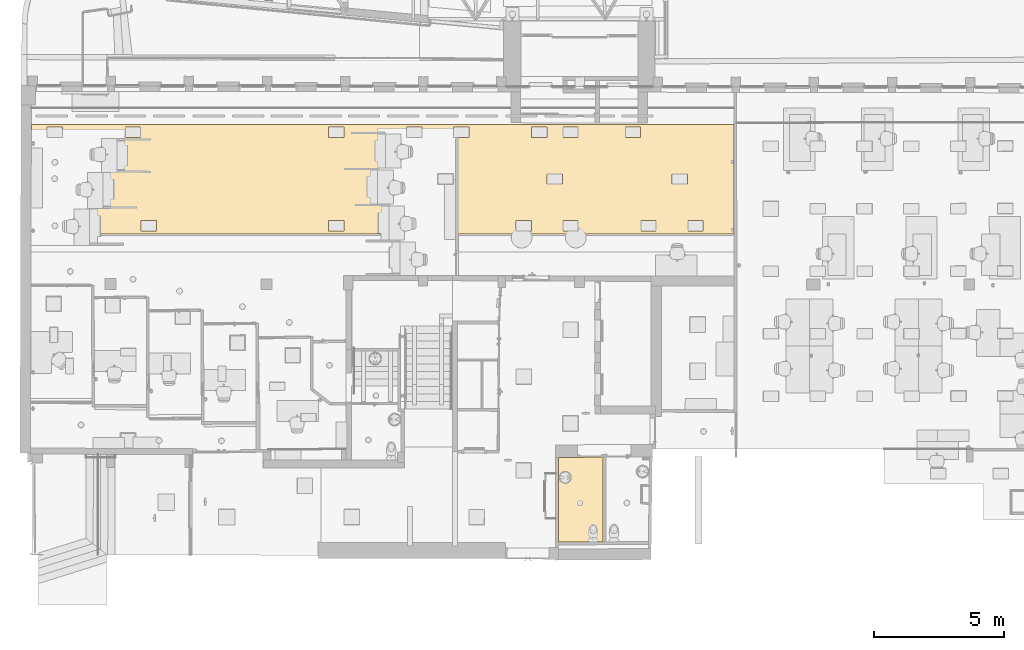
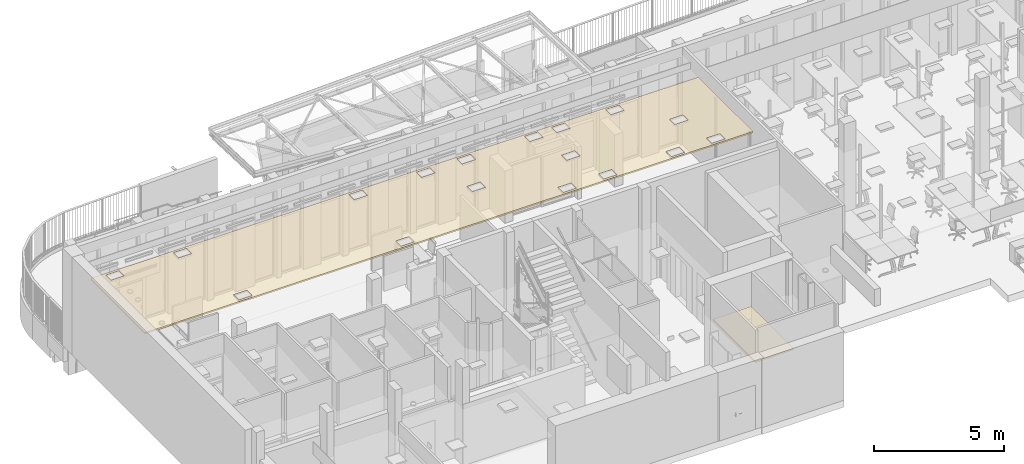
# One storey, part 60 of 128: 2 coverings.
"""IFC2X3 building model written with IfcOpenShell, lengths in metres."""

from ifc_helpers import new_model, entity, si_unit, converted_unit, derived_unit, direction, frame, origin, place, context, subcontext, project, spatial, faceted_brep, material, layer, layer_set, layer_usage, type_object, element, save


model = new_model("IFC2X3")

# Units and contexts
model_context = context("Model", 3, precision=1e-05, world=origin(), true_north=direction((6.123031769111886e-17, 1.0)))
body_context = subcontext(model_context, "Body", "Model", "MODEL_VIEW")
ifc_project = project(units=[si_unit("LENGTHUNIT", "METRE"), si_unit("AREAUNIT", "SQUARE_METRE"), converted_unit("PLANEANGLEUNIT", "DEGREE", entity("IfcPlaneAngleMeasure", 0.017453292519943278), si_unit("PLANEANGLEUNIT", "RADIAN"), dimensions=[0, 0, 0, 0, 0, 0, 0]), derived_unit("THERMALTRANSMITTANCEUNIT", [(si_unit("MASSUNIT", "GRAM", prefix="KILO"), 1), (si_unit("THERMODYNAMICTEMPERATUREUNIT", "KELVIN"), -1), (si_unit("TIMEUNIT", "SECOND"), -3)])], contexts=[model_context])

# Site, building, storey
site_placement = place(None, origin())
site = spatial("IfcSite", under=ifc_project, at=site_placement, Name="Default", CompositionType="ELEMENT")
building_placement = place(site_placement, origin())
building = spatial("IfcBuilding", under=site, at=building_placement, CompositionType="ELEMENT")
storey_placement = place(building_placement, origin())
storey = spatial("IfcBuildingStorey", under=building, at=storey_placement, Name="00_RDC CAF", CompositionType="ELEMENT", Elevation=2.4982504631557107e-13)

# Coverings
ifc_material_1 = material(Name="ARC - FP - Blanc")
ifc_layer_1 = layer(ifc_material_1, 0.02)
ifc_material_2 = material(Name="ARC - FP - Trame 600 x 600")
ifc_layer_2 = layer(ifc_material_2, 0.05)
ifc_layer_set = layer_set([ifc_layer_1, ifc_layer_2], Name="Plafond composé:FP_Dalle-600X600_70mm")
ifc_layer_usage_1 = layer_usage(ifc_layer_set, "AXIS3", "NEGATIVE", 0.07)
covering_type = type_object("IfcCoveringType", Name="Plafond composé:FP_Dalle-600X600_70mm", PredefinedType="CEILING")
covering_1_placement = place(storey_placement, frame((6.685112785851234, 138.4858941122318, 3.8399999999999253)))
element("IfcCovering", 1, at=covering_1_placement, inside=storey, type_object=covering_type, material=ifc_layer_usage_1, Name="Plafond composé:FP_Dalle-600X600_70mm", ObjectType="Plafond composé:FP_Dalle-600X600_70mm", PredefinedType="CEILING", context=body_context, shape_type="Brep", body=[
    faceted_brep([(0.012186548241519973, 4.204321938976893, 0.07000000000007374), (4.209170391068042, 4.104321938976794, 0.07000000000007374), (11.419170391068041, 4.1043219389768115, 0.07000000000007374), (3.619170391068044, 4.104321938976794, 0.07000000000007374), (1.2091703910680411, 4.104321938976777, 0.07000000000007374), (0.6191703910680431, 4.104321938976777, 0.07000000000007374), (12.009170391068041, 4.1043219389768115, 0.07000000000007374), (14.41917039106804, 4.104321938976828, 0.07000000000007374), (26.988919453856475, 4.204321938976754, 0.07000000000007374), (0.6191703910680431, 3.704321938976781, 0.07000000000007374), (0.0, 0.0, 0.07000000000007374), (1.2091703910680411, 3.704321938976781, 0.07000000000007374), (4.219170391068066, 0.504321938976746, 0.07000000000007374), (4.219170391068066, 0.10432193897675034, 0.07000000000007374), (4.809170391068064, 0.10432193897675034, 0.07000000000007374), (11.419170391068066, 0.10432193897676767, 0.07000000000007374), (12.009170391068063, 0.10432193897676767, 0.07000000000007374), (26.991775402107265, 0.0, 0.07000000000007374), (18.619170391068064, 0.10432193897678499, 0.07000000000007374), (19.20917039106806, 0.10432193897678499, 0.07000000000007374), (20.41917039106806, 0.10432193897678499, 0.07000000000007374), (21.009170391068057, 0.10432193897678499, 0.07000000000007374), (23.419170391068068, 0.10432193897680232, 0.07000000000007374), (24.00917039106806, 0.10432193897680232, 0.07000000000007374), (25.21917039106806, 0.10432193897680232, 0.07000000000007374), (25.809170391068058, 0.10432193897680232, 0.07000000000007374), (25.809170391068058, 0.504321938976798, 0.07000000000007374), (25.209170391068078, 1.9043219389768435, 0.07000000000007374), (15.009170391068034, 4.104321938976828, 0.07000000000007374), (16.219170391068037, 4.104321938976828, 0.07000000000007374), (16.809170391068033, 4.104321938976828, 0.07000000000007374), (19.219170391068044, 4.104321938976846, 0.07000000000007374), (19.80917039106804, 4.104321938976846, 0.07000000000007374), (20.419170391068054, 4.104321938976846, 0.07000000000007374), (21.009170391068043, 4.104321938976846, 0.07000000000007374), (22.819170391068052, 4.104321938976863, 0.07000000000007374), (23.409170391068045, 4.104321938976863, 0.07000000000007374), (25.20917039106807, 2.3043219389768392, 0.07000000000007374), (25.21917039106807, 0.504321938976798, 0.07000000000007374), (24.61917039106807, 1.9043219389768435, 0.07000000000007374), (24.009170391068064, 0.504321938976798, 0.07000000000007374), (23.419170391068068, 0.504321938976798, 0.07000000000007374), (22.819170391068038, 3.7043219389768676, 0.07000000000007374), (24.61917039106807, 2.3043219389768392, 0.07000000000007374), (23.40917039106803, 3.7043219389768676, 0.07000000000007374), (21.00917039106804, 3.7043219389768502, 0.07000000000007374), (20.409170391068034, 2.304321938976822, 0.07000000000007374), (20.409170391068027, 1.9043219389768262, 0.07000000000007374), (21.009170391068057, 0.5043219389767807, 0.07000000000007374), (20.41917039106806, 0.5043219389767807, 0.07000000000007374), (19.81917039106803, 1.9043219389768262, 0.07000000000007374), (19.20917039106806, 0.5043219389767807, 0.07000000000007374), (18.619170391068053, 0.5043219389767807, 0.07000000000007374), (19.81917039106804, 2.304321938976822, 0.07000000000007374), (16.20917039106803, 2.3043219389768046, 0.07000000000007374), (16.809170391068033, 3.704321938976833, 0.07000000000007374), (19.219170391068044, 3.7043219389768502, 0.07000000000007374), (19.80917039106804, 3.7043219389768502, 0.07000000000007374), (20.419170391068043, 3.7043219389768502, 0.07000000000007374), (16.219170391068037, 3.704321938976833, 0.07000000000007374), (15.009170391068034, 3.704321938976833, 0.07000000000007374), (15.619170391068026, 2.3043219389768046, 0.07000000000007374), (16.20917039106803, 1.904321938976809, 0.07000000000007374), (15.619170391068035, 1.904321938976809, 0.07000000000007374), (14.41917039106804, 3.704321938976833, 0.07000000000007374), (12.009170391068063, 0.5043219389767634, 0.07000000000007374), (12.009170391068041, 3.7043219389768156, 0.07000000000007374), (11.419170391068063, 0.5043219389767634, 0.07000000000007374), (4.809170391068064, 0.5043219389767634, 0.07000000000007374), (11.419170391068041, 3.7043219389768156, 0.07000000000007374), (4.209170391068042, 3.7043219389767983, 0.07000000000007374), (3.619170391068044, 3.7043219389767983, 0.07000000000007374), (0.0, 0.0, 0.0), (0.8091439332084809, 0.2756494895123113, 0.0), (0.8201329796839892, 0.24911958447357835, 0.0), (0.8053957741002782, 0.30411958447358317, 0.0), (0.837614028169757, 0.22633783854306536, 0.0), (0.8603957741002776, 0.20885679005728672, 0.0), (0.8091439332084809, 0.33258967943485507, 0.0), (0.8376140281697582, 0.38190133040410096, 0.0), (0.8201329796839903, 0.359119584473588, 0.0), (0.8521204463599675, 2.020326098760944, 0.0), (0.8603957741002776, 0.3993823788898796, 0.0), (0.829338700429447, 2.0378071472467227, 0.0), (0.8869256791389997, 0.19786774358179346, 0.0), (0.9153957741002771, 0.19411958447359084, 0.0), (0.9438658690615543, 0.19786774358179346, 0.0), (1.0106585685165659, 0.359119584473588, 0.0), (0.9931775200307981, 0.38190133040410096, 0.0), (1.0023832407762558, 2.0605888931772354, 0.0), (0.9703957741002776, 0.3993823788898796, 0.0), (0.984902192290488, 2.0378071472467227, 0.0), (0.9703957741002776, 0.20885679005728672, 0.0), (0.9931775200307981, 0.22633783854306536, 0.0), (4.219170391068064, 0.10432193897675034, 0.0), (0.8786503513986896, 2.0093370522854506, 0.0), (0.8869256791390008, 0.41037142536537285, 0.0), (0.9071204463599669, 2.005588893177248, 0.0), (0.012186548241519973, 4.204321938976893, 0.0), (0.8008686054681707, 2.144058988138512, 0.0), (0.7971204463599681, 2.1155888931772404, 0.0), (0.8118576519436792, 2.0605888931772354, 0.0), (0.809868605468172, 2.715118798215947, 0.0), (0.8118576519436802, 2.170588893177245, 0.0), (0.8008686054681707, 2.0871187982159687, 0.0), (0.9153957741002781, 0.4141195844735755, 0.0), (0.9355905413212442, 2.0093370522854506, 0.0), (0.9438658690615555, 0.41037142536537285, 0.0), (0.9621204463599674, 2.020326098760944, 0.0), (4.219170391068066, 0.504321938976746, 0.0), (1.017120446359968, 2.1155888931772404, 0.0), (1.0133722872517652, 2.144058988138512, 0.0), (3.6191703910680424, 3.7043219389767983, 0.0), (1.0133722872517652, 2.0871187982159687, 0.0), (11.419170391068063, 0.10432193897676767, 0.0), (4.809170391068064, 0.10432193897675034, 0.0), (4.809170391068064, 0.504321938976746, 0.0), (12.009170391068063, 0.10432193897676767, 0.0), (26.991775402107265, 0.0, 0.0), (1.025395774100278, 0.30411958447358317, 0.0), (1.0216476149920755, 0.33258967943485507, 0.0), (1.0216476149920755, 0.2756494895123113, 0.0), (1.0106585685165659, 0.24911958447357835, 0.0), (18.619170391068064, 0.10432193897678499, 0.0), (15.619170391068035, 1.904321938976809, 0.0), (19.20917039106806, 0.10432193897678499, 0.0), (20.41917039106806, 0.10432193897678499, 0.0), (21.009170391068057, 0.10432193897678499, 0.0), (20.41917039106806, 0.5043219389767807, 0.0), (23.41917039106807, 0.10432193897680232, 0.0), (23.419170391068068, 0.504321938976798, 0.0), (25.21917039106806, 0.10432193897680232, 0.0), (25.809170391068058, 0.10432193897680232, 0.0), (24.00917039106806, 0.10432193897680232, 0.0), (25.219170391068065, 0.504321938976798, 0.0), (25.809170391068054, 0.504321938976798, 0.0), (12.009170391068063, 0.5043219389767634, 0.0), (14.41917039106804, 3.704321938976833, 0.0), (16.20917039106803, 1.904321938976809, 0.0), (4.209170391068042, 3.704321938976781, 0.0), (11.419170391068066, 0.5043219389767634, 0.0), (12.009170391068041, 3.7043219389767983, 0.0), (18.61917039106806, 0.5043219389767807, 0.0), (19.81917039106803, 1.9043219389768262, 0.0), (19.20917039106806, 0.5043219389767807, 0.0), (19.819170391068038, 2.304321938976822, 0.0), (16.20917039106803, 2.3043219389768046, 0.0), (11.419170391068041, 3.7043219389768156, 0.0), (21.009170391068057, 0.5043219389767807, 0.0), (20.409170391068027, 1.9043219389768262, 0.0), (24.61917039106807, 1.9043219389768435, 0.0), (24.009170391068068, 0.504321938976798, 0.0), (25.20917039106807, 1.9043219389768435, 0.0), (22.819170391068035, 3.7043219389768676, 0.0), (26.988919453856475, 4.204321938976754, 0.0), (0.8521204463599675, 2.2108516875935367, 0.0), (0.829338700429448, 2.193370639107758, 0.0), (0.8383387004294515, 2.665807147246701, 0.0), (0.907120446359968, 2.2255888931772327, 0.0), (0.8786503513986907, 2.2218407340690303, 0.0), (0.8876503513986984, 2.637337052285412, 0.0), (0.8611204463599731, 2.6483260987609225, 0.0), (0.8208576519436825, 2.688588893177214, 0.0), (0.9161204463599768, 2.6335888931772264, 0.0), (0.9621204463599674, 2.2108516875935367, 0.0), (0.9355905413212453, 2.2218407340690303, 0.0), (0.9445905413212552, 2.6373370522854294, 0.0), (1.0023832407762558, 2.170588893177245, 0.0), (0.984902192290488, 2.193370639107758, 0.0), (0.9939021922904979, 2.665807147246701, 0.0), (0.9711204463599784, 2.64832609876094, 0.0), (1.0113832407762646, 2.6885888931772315, 0.0), (1.0223722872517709, 2.7151187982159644, 0.0), (0.8098686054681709, 2.772058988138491, 0.0), (0.8061204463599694, 2.7435888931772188, 0.0), (0.838338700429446, 2.821370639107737, 0.0), (0.8208576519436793, 2.798588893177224, 0.0), (0.6191703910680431, 3.704321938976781, 0.0), (0.6191703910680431, 4.104321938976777, 0.0), (1.2091703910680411, 4.104321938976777, 0.0), (0.8611204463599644, 2.838851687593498, 0.0), (0.8876503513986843, 2.8498407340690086, 0.0), (0.9161204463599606, 2.853588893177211, 0.0), (1.2091703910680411, 3.7043219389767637, 0.0), (1.0223722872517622, 2.7720589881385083, 0.0), (1.0113832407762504, 2.798588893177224, 0.0), (1.0261204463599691, 2.743588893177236, 0.0), (0.9445905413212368, 2.849840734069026, 0.0), (0.9939021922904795, 2.821370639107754, 0.0), (0.9711204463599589, 2.8388516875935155, 0.0), (3.619170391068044, 4.104321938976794, 0.0), (15.61917039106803, 2.3043219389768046, 0.0), (16.219170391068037, 3.704321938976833, 0.0), (15.009170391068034, 3.7043219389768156, 0.0), (15.009170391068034, 4.104321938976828, 0.0), (14.41917039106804, 4.104321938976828, 0.0), (11.419170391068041, 4.1043219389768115, 0.0), (20.409170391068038, 2.304321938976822, 0.0), (19.80917039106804, 3.704321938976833, 0.0), (23.409170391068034, 3.7043219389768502, 0.0), (25.209170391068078, 2.3043219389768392, 0.0), (24.61917039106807, 2.3043219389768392, 0.0), (16.809170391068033, 3.7043219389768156, 0.0), (19.219170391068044, 3.7043219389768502, 0.0), (20.419170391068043, 3.7043219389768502, 0.0), (19.80917039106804, 4.104321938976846, 0.0), (16.809170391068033, 4.104321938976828, 0.0), (21.00917039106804, 3.704321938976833, 0.0), (4.209170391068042, 4.104321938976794, 0.0), (12.009170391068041, 4.1043219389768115, 0.0), (16.219170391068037, 4.104321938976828, 0.0), (19.219170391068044, 4.104321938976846, 0.0), (21.009170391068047, 4.104321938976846, 0.0), (20.419170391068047, 4.104321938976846, 0.0), (22.81917039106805, 4.104321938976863, 0.0), (23.40917039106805, 4.104321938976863, 0.0), (0.012186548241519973, 4.204321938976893, 0.010000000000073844), (26.98891945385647, 4.204321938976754, 0.010000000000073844), (0.9703957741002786, 0.20885679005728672, 0.04999999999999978), (0.9438658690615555, 0.19786774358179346, 0.04999999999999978), (0.9153957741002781, 0.19411958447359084, 0.04999999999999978), (0.8869256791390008, 0.19786774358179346, 0.04999999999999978), (0.8603957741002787, 0.20885679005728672, 0.04999999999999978), (0.8376140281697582, 0.22633783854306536, 0.04999999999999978), (0.8201329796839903, 0.24911958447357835, 0.04999999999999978), (0.8091439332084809, 0.2756494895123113, 0.04999999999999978), (0.8053957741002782, 0.30411958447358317, 0.04999999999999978), (0.8091439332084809, 0.33258967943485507, 0.04999999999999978), (0.8201329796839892, 0.359119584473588, 0.04999999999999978), (0.837614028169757, 0.38190133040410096, 0.04999999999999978), (0.8603957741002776, 0.3993823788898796, 0.04999999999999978), (0.8869256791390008, 0.41037142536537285, 0.04999999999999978), (0.9153957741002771, 0.4141195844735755, 0.04999999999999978), (0.9438658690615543, 0.41037142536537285, 0.04999999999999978), (0.9703957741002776, 0.3993823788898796, 0.04999999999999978), (0.9931775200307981, 0.38190133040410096, 0.04999999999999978), (1.0106585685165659, 0.359119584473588, 0.04999999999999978), (1.0216476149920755, 0.33258967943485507, 0.04999999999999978), (1.025395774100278, 0.30411958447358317, 0.04999999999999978), (1.0216476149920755, 0.2756494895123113, 0.04999999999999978), (1.0106585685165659, 0.24911958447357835, 0.04999999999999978), (0.9931775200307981, 0.22633783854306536, 0.04999999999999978), (0.9621204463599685, 2.020326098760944, 0.04999999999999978), (0.9355905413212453, 2.0093370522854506, 0.04999999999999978), (0.907120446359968, 2.005588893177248, 0.04999999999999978), (0.8786503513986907, 2.0093370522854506, 0.04999999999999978), (0.8521204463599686, 2.020326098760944, 0.04999999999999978), (0.829338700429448, 2.0378071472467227, 0.04999999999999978), (0.8118576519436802, 2.0605888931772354, 0.04999999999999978), (0.8008686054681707, 2.0871187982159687, 0.04999999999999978), (0.7971204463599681, 2.1155888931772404, 0.04999999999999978), (0.8008686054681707, 2.144058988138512, 0.04999999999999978), (0.8118576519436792, 2.170588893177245, 0.04999999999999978), (0.829338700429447, 2.193370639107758, 0.04999999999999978), (0.8521204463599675, 2.2108516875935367, 0.04999999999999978), (0.8786503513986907, 2.2218407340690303, 0.04999999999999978), (0.9071204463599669, 2.2255888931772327, 0.04999999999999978), (0.9355905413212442, 2.2218407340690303, 0.04999999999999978), (0.9621204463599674, 2.2108516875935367, 0.04999999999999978), (0.984902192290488, 2.193370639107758, 0.04999999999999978), (1.0023832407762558, 2.170588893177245, 0.04999999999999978), (1.0133722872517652, 2.144058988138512, 0.04999999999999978), (1.017120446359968, 2.1155888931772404, 0.04999999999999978), (1.0133722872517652, 2.0871187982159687, 0.04999999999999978), (1.0023832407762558, 2.0605888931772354, 0.04999999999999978), (0.984902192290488, 2.0378071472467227, 0.04999999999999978), (0.9711204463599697, 2.6483260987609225, 0.04999999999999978), (0.9445905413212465, 2.6373370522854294, 0.04999999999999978), (0.9161204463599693, 2.6335888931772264, 0.04999999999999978), (0.887650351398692, 2.6373370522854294, 0.04999999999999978), (0.8611204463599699, 2.6483260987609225, 0.04999999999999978), (0.8383387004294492, 2.665807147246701, 0.04999999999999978), (0.8208576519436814, 2.688588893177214, 0.04999999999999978), (0.809868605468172, 2.715118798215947, 0.04999999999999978), (0.8061204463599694, 2.7435888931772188, 0.04999999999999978), (0.809868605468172, 2.772058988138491, 0.04999999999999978), (0.8208576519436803, 2.798588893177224, 0.04999999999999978), (0.8383387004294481, 2.821370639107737, 0.04999999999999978), (0.8611204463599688, 2.8388516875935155, 0.04999999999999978), (0.8876503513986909, 2.8498407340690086, 0.04999999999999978), (0.9161204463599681, 2.853588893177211, 0.04999999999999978), (0.9445905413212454, 2.8498407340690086, 0.04999999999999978), (0.9711204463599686, 2.8388516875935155, 0.04999999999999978), (0.9939021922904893, 2.821370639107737, 0.04999999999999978), (1.011383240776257, 2.798588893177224, 0.04999999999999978), (1.0223722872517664, 2.772058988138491, 0.04999999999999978), (1.0261204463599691, 2.7435888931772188, 0.04999999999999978), (1.0223722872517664, 2.715118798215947, 0.04999999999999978), (1.011383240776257, 2.688588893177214, 0.04999999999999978), (0.9939021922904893, 2.665807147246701, 0.04999999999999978)], [[[0, 1, 2]], [[1, 0, 3]], [[4, 3, 0]], [[0, 5, 4]], [[2, 6, 0]], [[0, 6, 7]], [[8, 0, 7]], [[5, 0, 9]], [[0, 10, 9]], [[11, 9, 10]], [[11, 10, 12]], [[10, 13, 12]], [[13, 10, 14]], [[14, 10, 15]], [[15, 10, 16]], [[17, 16, 10]], [[16, 17, 18]], [[19, 18, 17]], [[20, 19, 17]], [[21, 20, 17]], [[17, 22, 21]], [[23, 22, 17]], [[23, 17, 24]], [[25, 24, 17]], [[25, 17, 26]], [[27, 26, 17]], [[27, 17, 8]], [[7, 28, 8]], [[8, 28, 29]], [[30, 8, 29]], [[30, 31, 8]], [[32, 8, 31]], [[32, 33, 8]], [[8, 33, 34]], [[34, 35, 8]], [[36, 8, 35]], [[37, 8, 36]], [[8, 37, 27]], [[27, 38, 26]], [[27, 39, 38]], [[38, 39, 40]], [[39, 41, 40]], [[41, 39, 42]], [[43, 42, 39]], [[37, 44, 43]], [[43, 44, 42]], [[34, 42, 35]], [[45, 42, 34]], [[45, 46, 42]], [[47, 41, 42]], [[46, 47, 42]], [[47, 48, 41]], [[49, 48, 47]], [[49, 47, 50]], [[50, 51, 49]], [[51, 50, 52]], [[53, 52, 50]], [[53, 54, 52]], [[54, 53, 55]], [[56, 55, 53]], [[53, 57, 56]], [[53, 46, 57]], [[57, 46, 58]], [[57, 58, 32]], [[31, 30, 56]], [[56, 30, 55]], [[54, 55, 59]], [[28, 59, 29]], [[59, 28, 60]], [[61, 59, 60]], [[61, 54, 59]], [[52, 54, 62]], [[18, 62, 63]], [[18, 52, 62]], [[61, 64, 63]], [[16, 63, 65]], [[63, 64, 65]], [[16, 18, 63]], [[66, 65, 64]], [[67, 65, 66]], [[49, 51, 19]], [[19, 20, 49]], [[21, 41, 48]], [[21, 22, 41]], [[38, 40, 23]], [[24, 38, 23]], [[15, 68, 14]], [[68, 15, 67]], [[66, 69, 67]], [[67, 69, 68]], [[70, 68, 69]], [[70, 12, 68]], [[70, 71, 12]], [[11, 12, 71]], [[3, 11, 71]], [[3, 4, 11]], [[70, 2, 1]], [[70, 69, 2]], [[7, 6, 66]], [[7, 66, 64]], [[64, 61, 60]], [[58, 33, 32]], [[58, 46, 45]], [[37, 36, 44]], [[72, 73, 74]], [[73, 72, 75]], [[74, 76, 72]], [[72, 76, 77]], [[78, 75, 72]], [[79, 80, 72]], [[81, 82, 79]], [[78, 72, 80]], [[79, 72, 83]], [[77, 84, 72]], [[85, 86, 72]], [[84, 85, 72]], [[87, 88, 89]], [[90, 91, 88]], [[92, 93, 94]], [[86, 92, 94]], [[72, 86, 94]], [[95, 82, 81]], [[96, 95, 97]], [[96, 82, 95]], [[79, 83, 81]], [[98, 99, 100]], [[83, 72, 101]], [[99, 102, 103]], [[101, 72, 104]], [[72, 100, 104]], [[105, 97, 106]], [[97, 105, 96]], [[107, 106, 108]], [[106, 107, 105]], [[91, 90, 108]], [[89, 109, 87]], [[89, 88, 91]], [[107, 108, 90]], [[110, 111, 112]], [[100, 72, 98]], [[109, 89, 113]], [[114, 72, 115]], [[115, 116, 114]], [[117, 118, 72]], [[117, 72, 114]], [[119, 109, 94]], [[109, 119, 120]], [[94, 121, 119]], [[87, 109, 120]], [[121, 94, 122]], [[94, 93, 122]], [[123, 117, 124]], [[123, 125, 118]], [[118, 126, 127]], [[126, 118, 125]], [[128, 126, 125]], [[123, 118, 117]], [[127, 129, 118]], [[129, 127, 130]], [[131, 132, 118]], [[133, 131, 118]], [[134, 131, 133]], [[129, 133, 118]], [[118, 132, 135]], [[115, 72, 94]], [[124, 136, 137]], [[117, 136, 124]], [[124, 138, 123]], [[116, 109, 139]], [[136, 140, 141]], [[142, 123, 138]], [[142, 143, 144]], [[143, 142, 145]], [[144, 143, 128]], [[138, 146, 142]], [[140, 116, 147]], [[112, 109, 110]], [[144, 128, 125]], [[130, 148, 149]], [[150, 151, 130]], [[149, 148, 128]], [[130, 127, 148]], [[150, 134, 151]], [[134, 152, 135]], [[152, 134, 150]], [[135, 152, 118]], [[149, 153, 130]], [[153, 150, 130]], [[128, 143, 149]], [[134, 133, 151]], [[114, 116, 140]], [[110, 109, 113]], [[118, 152, 154]], [[155, 156, 157]], [[158, 159, 160]], [[155, 161, 159]], [[162, 156, 103]], [[161, 160, 159]], [[157, 161, 155]], [[162, 157, 156]], [[102, 162, 103]], [[158, 160, 163]], [[164, 165, 166]], [[167, 168, 169]], [[164, 170, 168]], [[163, 166, 165]], [[169, 171, 167]], [[170, 169, 168]], [[166, 170, 164]], [[165, 158, 163]], [[171, 172, 111]], [[173, 174, 98]], [[175, 176, 177]], [[173, 177, 176]], [[178, 98, 179]], [[98, 178, 177]], [[180, 177, 181]], [[180, 175, 177]], [[182, 181, 177]], [[177, 173, 98]], [[102, 99, 174]], [[183, 184, 185]], [[112, 172, 186]], [[186, 184, 112]], [[187, 182, 183]], [[183, 188, 189]], [[183, 189, 187]], [[185, 188, 183]], [[183, 182, 177]], [[112, 111, 172]], [[98, 190, 179]], [[98, 174, 99]], [[109, 112, 139]], [[145, 142, 146]], [[191, 192, 146]], [[147, 116, 139]], [[112, 184, 183]], [[137, 136, 141]], [[192, 193, 194]], [[141, 195, 137]], [[137, 193, 191]], [[137, 191, 124]], [[147, 141, 140]], [[147, 139, 196]], [[192, 191, 193]], [[197, 153, 149]], [[197, 145, 198]], [[199, 200, 201]], [[150, 153, 201]], [[202, 203, 145]], [[204, 197, 198]], [[205, 204, 198]], [[145, 203, 198]], [[203, 202, 206]], [[202, 145, 146]], [[146, 192, 202]], [[204, 207, 197]], [[112, 183, 190]], [[208, 196, 139]], [[98, 196, 208]], [[195, 209, 98]], [[98, 209, 196]], [[141, 209, 195]], [[194, 210, 192]], [[154, 194, 195]], [[206, 211, 203]], [[154, 206, 210]], [[154, 211, 206]], [[210, 194, 154]], [[190, 98, 208]], [[153, 207, 212]], [[204, 205, 213]], [[199, 201, 153]], [[153, 197, 207]], [[212, 214, 153]], [[212, 213, 154]], [[214, 154, 215]], [[154, 214, 212]], [[154, 200, 215]], [[213, 205, 154]], [[205, 211, 154]], [[215, 200, 199]], [[98, 154, 195]], [[183, 179, 190]], [[200, 154, 152]], [[171, 111, 167]], [[10, 0, 216, 98, 72]], [[17, 10, 72, 118]], [[8, 17, 118, 154, 217]], [[0, 8, 217, 154, 98, 216]], [[26, 38, 134, 135]], [[40, 41, 130, 151]], [[48, 49, 128, 148]], [[51, 52, 142, 144]], [[65, 67, 140, 136]], [[68, 12, 109, 116]], [[25, 26, 135, 132]], [[24, 25, 132, 131]], [[22, 23, 133, 129]], [[20, 21, 127, 126]], [[18, 19, 125, 123]], [[15, 16, 117, 114]], [[13, 14, 115, 94]], [[38, 24, 131, 134]], [[23, 40, 151, 133]], [[41, 22, 129, 130]], [[21, 48, 148, 127]], [[45, 34, 212, 207]], [[49, 20, 126, 128]], [[33, 58, 204, 213]], [[19, 51, 144, 125]], [[52, 18, 123, 142]], [[16, 65, 136, 117]], [[66, 6, 209, 141]], [[67, 15, 114, 140]], [[2, 69, 147, 196]], [[14, 68, 116, 115]], [[12, 13, 94, 109]], [[46, 53, 145, 197]], [[54, 61, 191, 146]], [[37, 43, 201, 200]], [[47, 46, 197, 149]], [[50, 47, 149, 143]], [[63, 62, 138, 124]], [[39, 27, 152, 150]], [[53, 50, 143, 145]], [[62, 54, 146, 138]], [[61, 63, 124, 191]], [[30, 29, 210, 206]], [[28, 7, 195, 194]], [[6, 2, 196, 209]], [[1, 3, 190, 208]], [[4, 5, 178, 179]], [[34, 33, 213, 212]], [[32, 31, 211, 205]], [[36, 35, 214, 215]], [[55, 30, 206, 202]], [[59, 55, 202, 192]], [[64, 60, 193, 137]], [[69, 66, 141, 147]], [[71, 70, 139, 112]], [[9, 11, 183, 177]], [[58, 45, 207, 204]], [[56, 57, 198, 203]], [[42, 44, 199, 153]], [[29, 59, 192, 210]], [[60, 28, 194, 193]], [[7, 64, 137, 195]], [[70, 1, 208, 139]], [[71, 112, 190, 3]], [[11, 4, 179, 183]], [[9, 177, 178, 5]], [[57, 32, 205, 198]], [[31, 56, 203, 211]], [[44, 36, 215, 199]], [[35, 42, 153, 214]], [[27, 37, 200, 152]], [[43, 39, 150, 201]], [[218, 219, 220, 221, 222, 223, 224, 225, 226, 227, 228, 229, 230, 231, 232, 233, 234, 235, 236, 237, 238, 239, 240, 241]], [[242, 243, 244, 245, 246, 247, 248, 249, 250, 251, 252, 253, 254, 255, 256, 257, 258, 259, 260, 261, 262, 263, 264, 265]], [[266, 267, 268, 269, 270, 271, 272, 273, 274, 275, 276, 277, 278, 279, 280, 281, 282, 283, 284, 285, 286, 287, 288, 289]], [[226, 75, 78, 227]], [[227, 78, 80, 228]], [[230, 229, 79, 82]], [[79, 229, 228, 80]], [[231, 230, 82, 96]], [[231, 96, 105, 232]], [[232, 105, 107, 233]], [[233, 107, 90, 234]], [[88, 235, 234, 90]], [[87, 236, 235, 88]], [[119, 238, 237, 120]], [[87, 120, 237, 236]], [[238, 119, 121, 239]], [[239, 121, 122, 240]], [[218, 241, 93, 92]], [[93, 241, 240, 122]], [[219, 218, 92, 86]], [[219, 86, 85, 220]], [[84, 221, 220, 85]], [[225, 224, 74, 73]], [[223, 76, 74, 224]], [[225, 73, 75, 226]], [[77, 222, 221, 84]], [[77, 76, 223, 222]], [[250, 100, 99, 251]], [[251, 99, 103, 252]], [[254, 253, 156, 155]], [[156, 253, 252, 103]], [[255, 254, 155, 159]], [[255, 159, 158, 256]], [[256, 158, 165, 257]], [[257, 165, 164, 258]], [[168, 259, 258, 164]], [[167, 260, 259, 168]], [[110, 262, 261, 111]], [[167, 111, 261, 260]], [[262, 110, 113, 263]], [[263, 113, 89, 264]], [[242, 265, 91, 108]], [[91, 265, 264, 89]], [[243, 242, 108, 106]], [[243, 106, 97, 244]], [[95, 245, 244, 97]], [[249, 248, 101, 104]], [[247, 83, 101, 248]], [[249, 104, 100, 250]], [[81, 246, 245, 95]], [[81, 83, 247, 246]], [[274, 174, 173, 275]], [[275, 173, 176, 276]], [[278, 277, 175, 180]], [[175, 277, 276, 176]], [[279, 278, 180, 181]], [[279, 181, 182, 280]], [[280, 182, 187, 281]], [[281, 187, 189, 282]], [[188, 283, 282, 189]], [[185, 284, 283, 188]], [[186, 286, 285, 184]], [[185, 184, 285, 284]], [[286, 186, 172, 287]], [[287, 172, 171, 288]], [[266, 289, 169, 170]], [[169, 289, 288, 171]], [[267, 266, 170, 166]], [[267, 166, 163, 268]], [[160, 269, 268, 163]], [[273, 272, 162, 102]], [[271, 157, 162, 272]], [[273, 102, 174, 274]], [[161, 270, 269, 160]], [[161, 157, 271, 270]]]),
])
ifc_layer_usage_2 = layer_usage(ifc_layer_set, "AXIS3", "NEGATIVE", 0.07)
covering_2_placement = place(storey_placement, frame((26.938375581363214, 126.6416864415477, 2.5899999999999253)))
element("IfcCovering", 2, at=covering_2_placement, inside=storey, type_object=covering_type, material=ifc_layer_usage_2, Name="Plafond composé:FP_Dalle-600X600_70mm", ObjectType="Plafond composé:FP_Dalle-600X600_70mm", PredefinedType="CEILING", context=body_context, shape_type="Brep", body=[
    faceted_brep([(1.7093488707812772, 0.012986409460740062, 0.07000000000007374), (1.7093488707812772, 3.266663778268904, 0.07000000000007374), (0.0, 3.254944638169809, 0.07000000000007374), (0.0, 0.0, 0.07000000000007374), (0.0, 3.254944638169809, 0.0), (0.7226058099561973, 1.5292666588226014, 0.0), (0.7188576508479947, 1.5007965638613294, 0.0), (0.7335948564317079, 1.5557965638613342, 0.0), (0.0, 0.0, 0.0), (0.7510759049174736, 1.5785783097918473, 0.0), (0.7738576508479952, 1.596059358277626, 0.0), (0.8003875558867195, 1.607048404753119, 0.0), (0.8288576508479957, 1.6107965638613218, 0.0), (1.7093488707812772, 3.266663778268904, 0.0), (0.8573277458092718, 1.607048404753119, 0.0), (0.8838576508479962, 1.596059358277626, 0.0), (0.9066393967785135, 1.5785783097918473, 0.0), (0.9241204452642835, 1.5557965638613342, 0.0), (0.9351094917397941, 1.5292666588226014, 0.0), (0.9388576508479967, 1.5007965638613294, 0.0), (1.7093488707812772, 0.012986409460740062, 0.0), (0.8288576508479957, 1.390796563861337, 0.0), (0.9351094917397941, 1.4723264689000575, 0.0), (0.9241204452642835, 1.4457965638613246, 0.0), (0.9066393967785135, 1.4230148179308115, 0.0), (0.8838576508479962, 1.405533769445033, 0.0), (0.8573277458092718, 1.3945447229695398, 0.0), (0.8003875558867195, 1.3945447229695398, 0.0), (0.7226058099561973, 1.4723264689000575, 0.0), (0.7335948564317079, 1.4457965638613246, 0.0), (0.7510759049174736, 1.4230148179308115, 0.0), (0.7738576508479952, 1.405533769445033, 0.0), (0.8838576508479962, 1.405533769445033, 0.04999999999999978), (0.8573277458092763, 1.3945447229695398, 0.04999999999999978), (0.8288576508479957, 1.390796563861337, 0.04999999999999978), (0.8003875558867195, 1.3945447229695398, 0.04999999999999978), (0.7738576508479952, 1.405533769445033, 0.04999999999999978), (0.7510759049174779, 1.4230148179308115, 0.04999999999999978), (0.7335948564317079, 1.4457965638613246, 0.04999999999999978), (0.7226058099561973, 1.4723264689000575, 0.04999999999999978), (0.7188576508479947, 1.5007965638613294, 0.04999999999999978), (0.7226058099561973, 1.5292666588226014, 0.04999999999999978), (0.7335948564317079, 1.5557965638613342, 0.04999999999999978), (0.7510759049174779, 1.5785783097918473, 0.04999999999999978), (0.7738576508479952, 1.596059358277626, 0.04999999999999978), (0.8003875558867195, 1.607048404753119, 0.04999999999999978), (0.8288576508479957, 1.6107965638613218, 0.04999999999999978), (0.8573277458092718, 1.607048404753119, 0.04999999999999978), (0.8838576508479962, 1.596059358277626, 0.04999999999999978), (0.9066393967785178, 1.5785783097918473, 0.04999999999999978), (0.9241204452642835, 1.5557965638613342, 0.04999999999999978), (0.9351094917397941, 1.5292666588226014, 0.04999999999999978), (0.9388576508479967, 1.5007965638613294, 0.04999999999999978), (0.9351094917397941, 1.4723264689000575, 0.04999999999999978), (0.9241204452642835, 1.4457965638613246, 0.04999999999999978), (0.9066393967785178, 1.4230148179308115, 0.04999999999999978)], [[[0, 1, 2, 3]], [[4, 5, 6]], [[5, 4, 7]], [[4, 6, 8]], [[9, 7, 4]], [[10, 9, 4]], [[11, 10, 4]], [[4, 12, 11]], [[12, 4, 13]], [[14, 12, 13]], [[15, 14, 13]], [[13, 16, 15]], [[16, 13, 17]], [[18, 17, 13]], [[13, 19, 18]], [[19, 13, 20]], [[8, 21, 20]], [[22, 19, 20]], [[20, 23, 22]], [[23, 20, 24]], [[25, 24, 20]], [[26, 25, 20]], [[26, 20, 21]], [[27, 21, 8]], [[28, 8, 6]], [[8, 28, 29]], [[8, 29, 30]], [[30, 31, 8]], [[31, 27, 8]], [[2, 1, 13, 4]], [[3, 2, 4, 8]], [[0, 3, 8, 20]], [[1, 0, 20, 13]], [[32, 33, 34, 35, 36, 37, 38, 39, 40, 41, 42, 43, 44, 45, 46, 47, 48, 49, 50, 51, 52, 53, 54, 55]], [[40, 6, 5, 41]], [[41, 5, 7, 42]], [[44, 43, 9, 10]], [[9, 43, 42, 7]], [[45, 44, 10, 11]], [[45, 11, 12, 46]], [[46, 12, 14, 47]], [[47, 14, 15, 48]], [[16, 49, 48, 15]], [[17, 50, 49, 16]], [[19, 52, 51, 18]], [[17, 18, 51, 50]], [[52, 19, 22, 53]], [[53, 22, 23, 54]], [[32, 55, 24, 25]], [[24, 55, 54, 23]], [[33, 32, 25, 26]], [[33, 26, 21, 34]], [[27, 35, 34, 21]], [[39, 38, 29, 28]], [[37, 30, 29, 38]], [[39, 28, 6, 40]], [[31, 36, 35, 27]], [[31, 30, 37, 36]]]),
])

save(model, "model.ifc")
